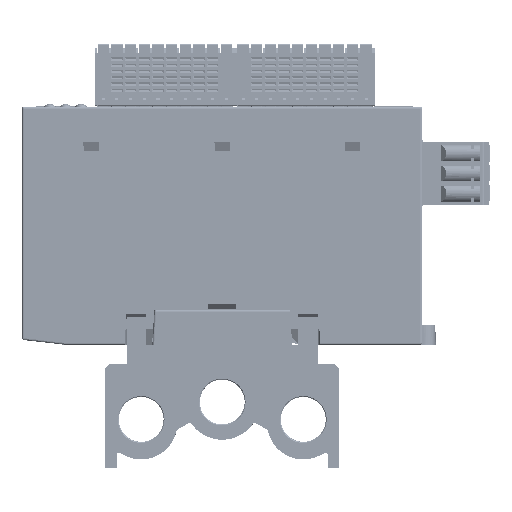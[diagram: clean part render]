
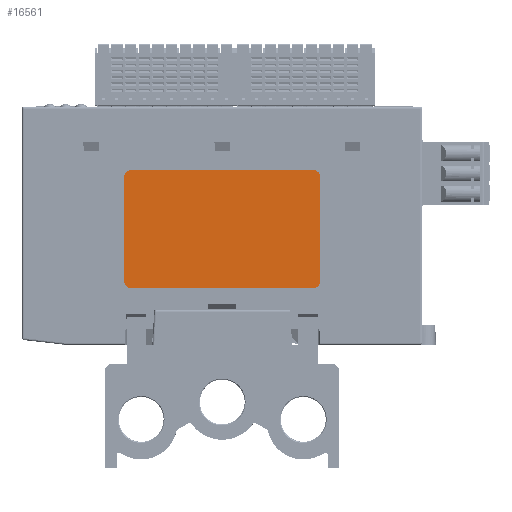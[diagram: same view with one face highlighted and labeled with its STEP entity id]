
A CAD part, front view. The second image highlights one B-rep face of the part: STEP entity #16561.
In plain terms, the highlighted planar face has unit normal (0, -1, 0).
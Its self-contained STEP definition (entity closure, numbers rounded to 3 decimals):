
#7148=FACE_OUTER_BOUND('',#71315,.T.);
#16561=ADVANCED_FACE('',(#7148),#26101,.F.);
#26101=PLANE('',#180726);
#33762=LINE('',#252724,#51774);
#33766=LINE('',#252732,#51778);
#33768=LINE('',#252736,#51780);
#33771=LINE('',#252744,#51783);
#51774=VECTOR('',#198819,1.);
#51778=VECTOR('',#198825,1.);
#51780=VECTOR('',#198829,1.);
#51783=VECTOR('',#198836,1.);
#71315=EDGE_LOOP('',(#85090,#85091,#85092,#85093,#85094,#85095,#85096,#85097));
#85090=ORIENTED_EDGE('',*,*,#151640,.F.);
#85091=ORIENTED_EDGE('',*,*,#151645,.T.);
#85092=ORIENTED_EDGE('',*,*,#151646,.F.);
#85093=ORIENTED_EDGE('',*,*,#151647,.T.);
#85094=ORIENTED_EDGE('',*,*,#151642,.F.);
#85095=ORIENTED_EDGE('',*,*,#151648,.T.);
#85096=ORIENTED_EDGE('',*,*,#151636,.F.);
#85097=ORIENTED_EDGE('',*,*,#151649,.T.);
#134412=VERTEX_POINT('',#252725);
#134413=VERTEX_POINT('',#252726);
#134414=VERTEX_POINT('',#252731);
#134415=VERTEX_POINT('',#252733);
#134416=VERTEX_POINT('',#252737);
#134417=VERTEX_POINT('',#252738);
#134418=VERTEX_POINT('',#252743);
#134419=VERTEX_POINT('',#252745);
#151636=EDGE_CURVE('',#134412,#134413,#33762,.T.);
#151640=EDGE_CURVE('',#134414,#134415,#33766,.T.);
#151642=EDGE_CURVE('',#134416,#134417,#33768,.T.);
#151645=EDGE_CURVE('',#134414,#134418,#175142,.T.);
#151646=EDGE_CURVE('',#134419,#134418,#33771,.T.);
#151647=EDGE_CURVE('',#134419,#134417,#175143,.T.);
#151648=EDGE_CURVE('',#134416,#134413,#175144,.T.);
#151649=EDGE_CURVE('',#134412,#134415,#175145,.T.);
#175142=CIRCLE('',#180722,1.8);
#175143=CIRCLE('',#180723,1.8);
#175144=CIRCLE('',#180724,1.8);
#175145=CIRCLE('',#180725,1.8);
#180722=AXIS2_PLACEMENT_3D('',#252742,#198834,#198835);
#180723=AXIS2_PLACEMENT_3D('',#252746,#198837,#198838);
#180724=AXIS2_PLACEMENT_3D('',#252747,#198839,#198840);
#180725=AXIS2_PLACEMENT_3D('',#252748,#198841,#198842);
#180726=AXIS2_PLACEMENT_3D('',#252749,#198843,#198844);
#198819=DIRECTION('',(0.,0.,-1.));
#198825=DIRECTION('',(1.,0.,0.));
#198829=DIRECTION('',(-1.,0.,0.));
#198834=DIRECTION('',(0.,-1.,0.));
#198835=DIRECTION('',(0.,0.,1.));
#198836=DIRECTION('',(0.,0.,1.));
#198837=DIRECTION('',(0.,-1.,0.));
#198838=DIRECTION('',(0.,0.,-1.));
#198839=DIRECTION('',(0.,-1.,0.));
#198840=DIRECTION('',(0.,0.,-1.));
#198841=DIRECTION('',(0.,-1.,0.));
#198842=DIRECTION('',(0.,0.,-1.));
#198843=DIRECTION('',(0.,1.,0.));
#198844=DIRECTION('',(0.,0.,-1.));
#252724=CARTESIAN_POINT('',(525.15,1197.86,34.634));
#252725=CARTESIAN_POINT('',(525.15,1197.86,47.934));
#252726=CARTESIAN_POINT('',(525.15,1197.86,21.334));
#252731=CARTESIAN_POINT('',(476.75,1197.86,49.734));
#252732=CARTESIAN_POINT('',(500.05,1197.86,49.734));
#252733=CARTESIAN_POINT('',(523.35,1197.86,49.734));
#252736=CARTESIAN_POINT('',(475.05,1197.86,19.534));
#252737=CARTESIAN_POINT('',(523.35,1197.86,19.534));
#252738=CARTESIAN_POINT('',(476.75,1197.86,19.534));
#252742=CARTESIAN_POINT('',(476.75,1197.86,47.934));
#252743=CARTESIAN_POINT('',(474.95,1197.86,47.934));
#252744=CARTESIAN_POINT('',(474.95,1197.86,34.634));
#252745=CARTESIAN_POINT('',(474.95,1197.86,21.334));
#252746=CARTESIAN_POINT('',(476.75,1197.86,21.334));
#252747=CARTESIAN_POINT('',(523.35,1197.86,21.334));
#252748=CARTESIAN_POINT('',(523.35,1197.86,47.934));
#252749=CARTESIAN_POINT('',(500.041,1197.86,23.341));
